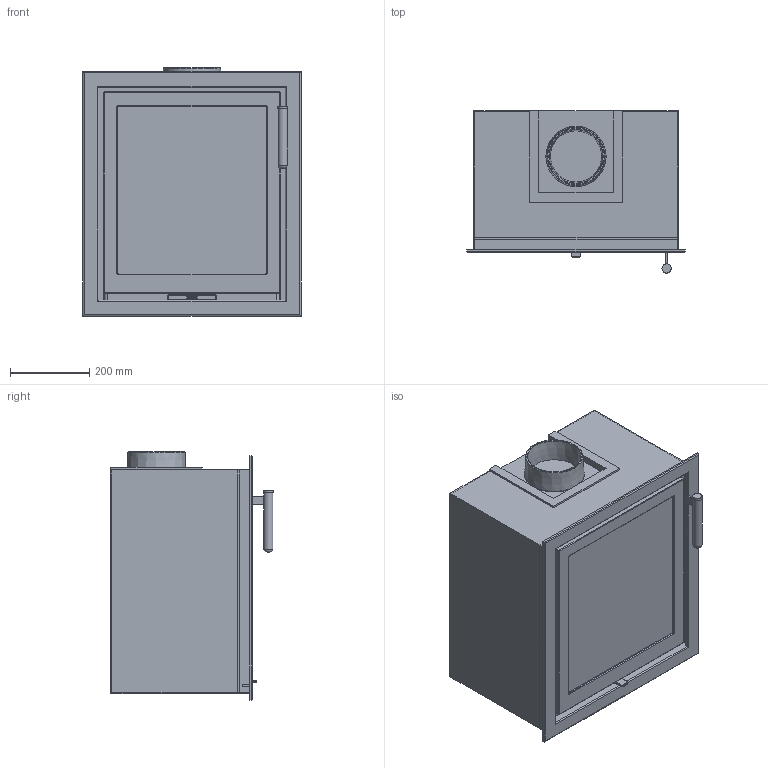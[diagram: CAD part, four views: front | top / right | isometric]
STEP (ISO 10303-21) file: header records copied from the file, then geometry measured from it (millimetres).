
FILE_DESCRIPTION(/* description */ ('Unknown'),/* implementation_level */ '2;1');
FILE_NAME(/* name */ 'Ci2 4-sidig',/* time_stamp */ '2024-09-30T13:39:47+02:00',/* author */ ('Unknown'),/* organization */ ('Unknown'),/* preprocessor_version */ 'ST-DEVELOPER v18.102',/* originating_system */ 'Solid Edge',/* authorisation */ 'Unknown');
FILE_SCHEMA (('AUTOMOTIVE_DESIGN {1 0 10303 214 3 1 1}'));
Length unit declared in the file: millimetre
Products named in the file (8): DSN1058324; DSN1058327; DSN1058328; DSN1058329; DSN1058330; DSN1058332; DSN1058335; DSN1058333
Assembly tree (7 placements, depth 2):
  DSN1058324
    DSN1058327
    DSN1058328
    DSN1058329
    DSN1058330
    DSN1058332
    DSN1058335
    DSN1058333
Bounding box: 549 x 407.9 x 624.4 mm (x, y, z)
Volume: 23426379.4 mm3; surface area: 6142204.4 mm2
Topology: 8 solids, 8 shells, 727 faces, 1812 edges, 1146 vertices
Faces by surface type: plane 403, cylinder 154, bspline 124, torus 34, sphere 10, cone 2
Full cylindrical faces by diameter (mm): 6.027 x9, 23 x1, 23.4 x1
Entity records: 26080 total; most frequent: CARTESIAN_POINT 9097, ORIENTED_EDGE 3530, DIRECTION 3215, EDGE_CURVE 1765, LINE 1209, VECTOR 1209, VERTEX_POINT 1134, AXIS2_PLACEMENT_3D 1003
